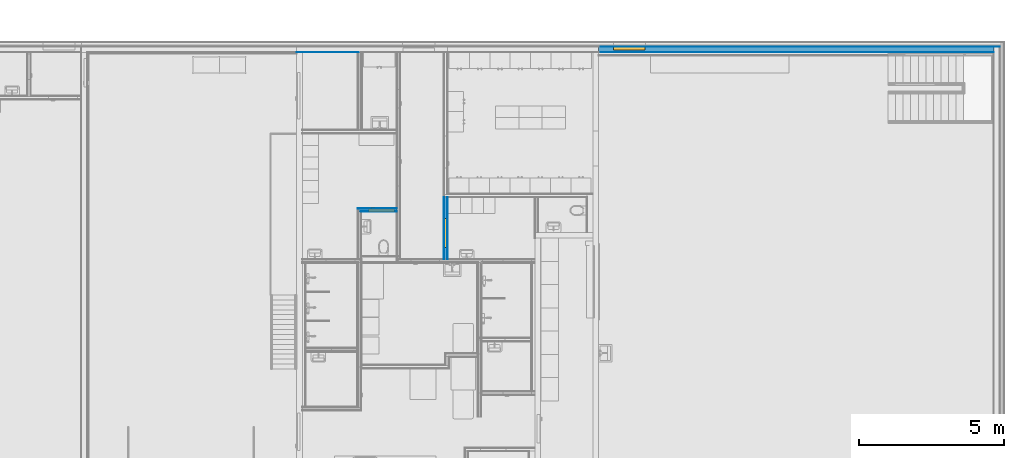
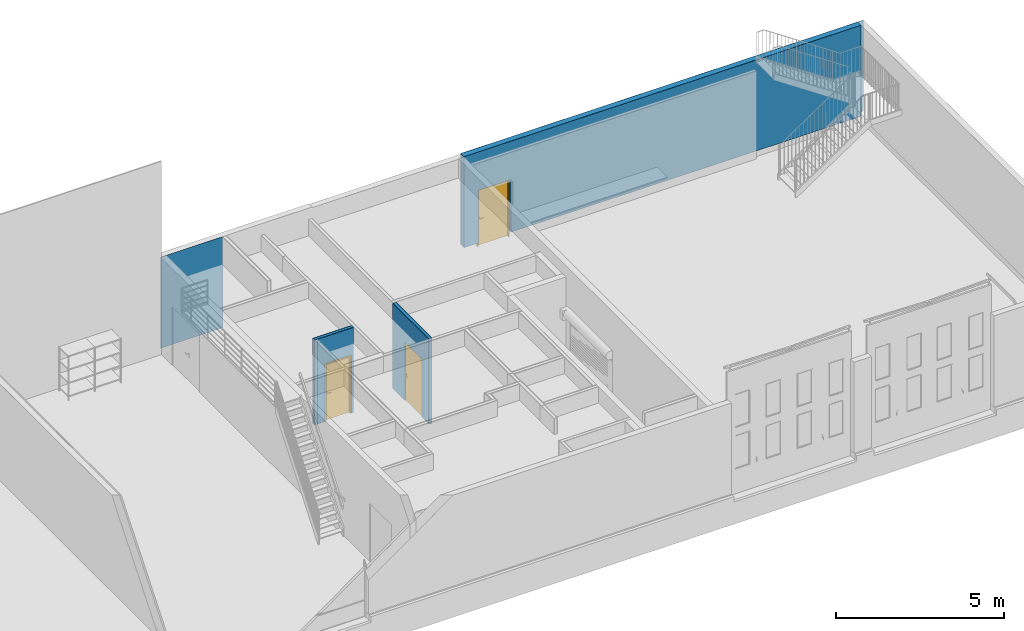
# One storey, part 22 of 67: 10 building element parts, 3 doors, 4 openings, 4 elements without a shape of their own.
"""IFC4 building model written with IfcOpenShell, lengths in millimetres."""

from ifc_helpers import new_model, entity, si_unit, converted_unit, direction, frame, origin, place, context, subcontext, project, spatial, indexed_curve, outline, extrude, polygons, source, transform, mapped, material, constituent, constituent_set, type_object, type_shapes, element, fill, aggregate, save


model = new_model("IFC4")

# Units and contexts
model_context = context("Model", 3, precision=0.01, world=origin(), true_north=direction((0.0, 1.0)))
body_context = subcontext(model_context, "Body", "Model", "MODEL_VIEW")
ifc_project = project(units=[si_unit("LENGTHUNIT", "METRE", prefix="MILLI"), si_unit("AREAUNIT", "SQUARE_METRE"), si_unit("VOLUMEUNIT", "CUBIC_METRE"), converted_unit("PLANEANGLEUNIT", "DEGREE", entity("IfcPlaneAngleMeasure", 0.017453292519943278), si_unit("PLANEANGLEUNIT", "RADIAN"), dimensions=[0, 0, 0, 0, 0, 0, 0])], contexts=[model_context])

# Site, building, storey
site_placement = place(None, origin())
site = spatial("IfcSite", under=ifc_project, at=site_placement, Name="Tomtens navn", CompositionType="ELEMENT")
building_placement = place(site_placement, origin())
building = spatial("IfcBuilding", under=site, at=building_placement, Name="Byggets navn", CompositionType="ELEMENT")
storey_placement = place(building_placement, origin())
storey = spatial("IfcBuildingStorey", under=building, at=storey_placement, Name="Level 01", CompositionType="ELEMENT", Elevation=2.1993652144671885e-25)

# Door
ifc_material_1 = material(Name="Rustfritt Stål", Category="Metal")
ifc_constituent_1 = constituent(ifc_material_1, Name="Rustfritt Stål", Category="Metal", fraction=0.0018055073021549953)
ifc_material_2 = material(Name="Hvit", Category="Paint")
ifc_constituent_2 = constituent(ifc_material_2, Name="Hvit", Category="Paint", fraction=0.998194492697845)
ifc_constituent_set_1 = constituent_set(constituents=[ifc_constituent_1, ifc_constituent_2])
ifc_constituent_3 = constituent(ifc_material_1, Name="Rustfritt Stål", Category="Metal", fraction=0.0009035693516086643)
ifc_constituent_4 = constituent(ifc_material_2, Name="Panel", Category="Paint", fraction=0.4995482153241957)
ifc_constituent_5 = constituent(ifc_material_2, Name="Frame/Mullion", Category="Paint", fraction=0.4995482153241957)
ifc_constituent_set_2 = constituent_set(constituents=[ifc_constituent_3, ifc_constituent_4, ifc_constituent_5])
door_type_1 = type_object("IfcDoorType", Name="Enfløyet:ID11 Tredør 10x21M", OperationType="SINGLE_SWING_LEFT", PredefinedType="DOOR", material=ifc_constituent_set_2)
shared_shape_1 = source(origin(), body_context, "Body", "SweptSolid", [
    extrude(outline(indexed_curve([(-33.33333333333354, -50.833333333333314), (24.166666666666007, -50.833333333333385), (24.166666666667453, 86.66666666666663), (9.16666666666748, 86.6666666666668), (9.166666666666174, -35.83333333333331), (-33.33333333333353, -35.83333333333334), (-33.33333333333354, -50.833333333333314)], self_intersect=False)), frame((868.666666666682, 119.9410394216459, 980.5000000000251), z_axis=(0.0, 0.0, 1.0), x_axis=(0.0, 1.0, 0.0)), (0.0, 0.0, 1.0), 14.999999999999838),
    extrude(outline(indexed_curve([(-2.8000000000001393, -25.000000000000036), (2.799999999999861, -25.000000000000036), (2.8000000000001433, 25.000000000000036), (-2.799999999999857, 24.999999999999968), (-2.8000000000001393, -25.000000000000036)], self_intersect=False)), frame((912.0, 83.80000000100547, 850.9862950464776), z_axis=(0.0, 0.0, 1.0), x_axis=(0.0, -1.0, 0.0)), (0.0, 0.0, 1.0), 159.01370495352),
    extrude(outline(indexed_curve([(-50.83333333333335, -33.33333333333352), (-35.83333333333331, -33.33333333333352), (-35.83333333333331, 9.16666666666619), (86.6666666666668, 9.1666666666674), (86.66666666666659, 24.1666666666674), (-50.83333333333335, 24.16666666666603), (-50.83333333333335, -33.33333333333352)], self_intersect=False)), frame((868.6666666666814, 2.0589605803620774, 980.5000000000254), z_axis=(0.0, 0.0, 1.0), x_axis=(-1.0, 0.0, 0.0)), (0.0, 0.0, 1.0), 14.999999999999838),
    extrude(outline(indexed_curve([(-24.999999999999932, -2.799999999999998), (25.00000000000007, -2.799999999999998), (25.0, 2.800000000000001), (-24.999999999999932, 2.800000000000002), (-24.999999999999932, -2.799999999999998)], self_intersect=False)), frame((912.0, 38.200000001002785, 850.9862950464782)), (0.0, 0.0, 1.0), 159.01370495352),
    extrude(outline(indexed_curve([(-456.9999999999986, -20.0), (456.9999999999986, -20.0), (456.9999999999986, 20.0), (-456.9999999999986, 20.0), (-456.9999999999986, -20.0)], self_intersect=False)), frame((505.0, 61.00000000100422, 10.0)), (0.0, 0.0, 1.0), 2042.0),
    extrude(outline(indexed_curve([(456.9999999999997, -1035.4999999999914), (494.99999999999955, -1035.4999999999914), (494.99999999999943, 1054.4999999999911), (-494.99999999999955, 1054.4999999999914), (-494.99999999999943, -1035.4999999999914), (-456.99999999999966, -1035.4999999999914), (-456.99999999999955, 1016.4999999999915), (456.99999999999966, 1016.4999999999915), (456.9999999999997, -1035.4999999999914)], self_intersect=False)), frame((505.0, 81.00000000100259, 1035.4999999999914), z_axis=(0.0, -1.0, 0.0), x_axis=(1.0, 0.0, 0.0)), (0.0, 0.0, 1.0), 99.99999999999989),
])
type_shapes(door_type_1, [shared_shape_1])
wall_1_placement = place(storey_placement, frame((63555.35352810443, 17870.466456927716, 0.0), z_axis=(0.0, 0.0, 1.0), x_axis=(0.0, -1.0, 0.0)))
opening_1_placement = place(wall_1_placement, frame((1730.500000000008, 60.500000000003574, 0.0)))
door_1_placement = place(opening_1_placement, frame((0.0, -20.0, 0.0), z_axis=(0.0, 0.0, 1.0), x_axis=(-1.0, 0.0, 0.0)))
door_1 = element("IfcDoor", 1, at=door_1_placement, inside=storey, type_object=door_type_1, material=ifc_constituent_set_1, Name="Enfløyet:ID11 Tredør 10x21M", OverallHeight=2110.000000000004, OverallWidth=1009.9999999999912, PredefinedType="DOOR", context=body_context, shape_type="MappedRepresentation", body=[
    mapped(shared_shape_1, transform((0.0, 0.0, 0.0), scale=1.0)),
])

ifc_constituent_6 = constituent(ifc_material_1, Name="Rustfritt Stål", Category="Metal", fraction=0.0019857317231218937)
ifc_material_3 = material(Name="NO_Maling - Hvit", Category="Overflatebehandling")
ifc_constituent_7 = constituent(ifc_material_3, Name="NO_Maling - Hvit", Category="Overflatebehandling", fraction=0.7764080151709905)
ifc_constituent_8 = constituent(ifc_material_2, Name="Hvit", Category="Paint", fraction=0.2216062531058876)
ifc_constituent_set_3 = constituent_set(constituents=[ifc_constituent_6, ifc_constituent_7, ifc_constituent_8])
ifc_constituent_9 = constituent(ifc_material_1, Name="Rustfritt Stål", Category="Metal", fraction=0.0019857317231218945)
ifc_constituent_10 = constituent(ifc_material_3, Name="Panel", Category="Overflatebehandling", fraction=0.7764080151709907)
ifc_constituent_11 = constituent(ifc_material_2, Name="Frame/Mullion", Category="Paint", fraction=0.22160625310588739)
ifc_constituent_set_4 = constituent_set(constituents=[ifc_constituent_9, ifc_constituent_10, ifc_constituent_11])
door_type_2 = type_object("IfcDoorType", Name="Enfløyet:ID04 Tredør 9x21M", OperationType="SINGLE_SWING_RIGHT", PredefinedType="DOOR", material=ifc_constituent_set_4)
shared_shape_2 = source(origin(), body_context, "Body", "SweptSolid", [
    extrude(outline(indexed_curve([(-50.833333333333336, -33.33333333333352), (-35.83333333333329, -33.33333333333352), (-35.8333333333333, 9.166666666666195), (86.66666666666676, 9.16666666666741), (86.66666666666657, 24.166666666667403), (-50.83333333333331, 24.16666666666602), (-50.833333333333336, -33.33333333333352)], self_intersect=False)), frame((141.33333333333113, 139.9410394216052, 980.5000000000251)), (0.0, 0.0, 1.0), 14.999999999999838),
    extrude(outline(indexed_curve([(-24.999999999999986, -2.7999999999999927), (25.000000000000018, -2.800000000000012), (24.999999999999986, 2.7999999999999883), (-24.99999999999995, 2.8000000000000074), (-24.999999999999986, -2.7999999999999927)], self_intersect=False)), frame((98.0, 103.80000000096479, 850.9862950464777), z_axis=(0.0, 0.0, 1.0), x_axis=(-1.0, 0.0, 0.0)), (0.0, 0.0, 1.0), 159.01370495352),
    extrude(outline(indexed_curve([(-33.33333333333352, -50.83333333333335), (24.16666666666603, -50.83333333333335), (24.166666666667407, 86.66666666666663), (9.166666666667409, 86.6666666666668), (9.16666666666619, -35.83333333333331), (-33.33333333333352, -35.83333333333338), (-33.33333333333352, -50.83333333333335)], self_intersect=False)), frame((141.33333333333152, 22.058960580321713, 980.5000000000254), z_axis=(0.0, 0.0, 1.0), x_axis=(0.0, -1.0, 0.0)), (0.0, 0.0, 1.0), 14.999999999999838),
    extrude(outline(indexed_curve([(-2.800000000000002, -25.00000000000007), (2.799999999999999, -25.00000000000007), (2.8000000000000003, 25.0), (-2.800000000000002, 24.999999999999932), (-2.800000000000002, -25.00000000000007)], self_intersect=False)), frame((98.0, 58.20000000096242, 850.9862950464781), z_axis=(0.0, 0.0, 1.0), x_axis=(0.0, 1.0, 0.0)), (0.0, 0.0, 1.0), 159.01370495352),
    extrude(outline(indexed_curve([(-20.0, -406.9999999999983), (20.0, -406.9999999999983), (20.0, 406.9999999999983), (-20.0, 406.9999999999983), (-20.0, -406.9999999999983)], self_intersect=False)), frame((455.0, 81.0, 10.0), z_axis=(0.0, 0.0, 1.0), x_axis=(0.0, 1.0, 0.0)), (0.0, 0.0, 1.0), 2042.0),
    extrude(outline(indexed_curve([(-1035.4999999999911, -444.9999999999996), (1054.4999999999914, -444.99999999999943), (1054.4999999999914, 444.99999999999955), (-1035.4999999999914, 444.99999999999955), (-1035.4999999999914, 406.9999999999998), (1016.4999999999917, 406.9999999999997), (1016.4999999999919, -406.99999999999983), (-1035.4999999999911, -406.9999999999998), (-1035.4999999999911, -444.9999999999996)], self_intersect=False)), frame((455.0, 1.0, 1035.4999999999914), z_axis=(0.0, 1.0, 0.0), x_axis=(0.0, 0.0, 1.0)), (0.0, 0.0, 1.0), 99.99999999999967),
])
type_shapes(door_type_2, [shared_shape_2])
wall_2_placement = place(storey_placement, frame((61865.35352810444, 17435.466456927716, 0.0), z_axis=(0.0, 0.0, 1.0), x_axis=(-1.0, 0.0, 0.0)))
opening_2_placement = place(wall_2_placement, frame((980.500000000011, 60.49999999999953, 0.0)))
door_2_placement = place(opening_2_placement, frame((0.0, 0.0, 0.0), z_axis=(0.0, 0.0, 1.0), x_axis=(-1.0, 0.0, 0.0)))
door_2 = element("IfcDoor", 2, at=door_2_placement, inside=storey, type_object=door_type_2, material=ifc_constituent_set_3, Name="Enfløyet:ID04 Tredør 9x21M", OverallHeight=2110.000000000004, OverallWidth=909.9999999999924, PredefinedType="DOOR", context=body_context, shape_type="MappedRepresentation", body=[
    mapped(shared_shape_2, transform((0.0, 0.0, 0.0), scale=1.0)),
])

ifc_constituent_12 = constituent(ifc_material_1, Name="Rustfritt Stål", Category="Metal", fraction=0.0016552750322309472)
ifc_material_4 = material(Name="NO_Maling - mørk grå", Category="Overflatebehandling")
ifc_constituent_13 = constituent(ifc_material_4, Name="NO_Maling - mørk grå", Category="Overflatebehandling", fraction=0.8062192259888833)
ifc_material_5 = material(Name="NO_Maling - sort", Category="Overflatebehandling")
ifc_constituent_14 = constituent(ifc_material_5, Name="NO_Maling - sort", Category="Overflatebehandling", fraction=0.19212549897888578)
ifc_constituent_set_5 = constituent_set(constituents=[ifc_constituent_12, ifc_constituent_13, ifc_constituent_14])
ifc_constituent_15 = constituent(ifc_material_1, Name="Rustfritt Stål", Category="Metal", fraction=0.0016552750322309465)
ifc_constituent_16 = constituent(ifc_material_4, Name="Panel", Category="Overflatebehandling", fraction=0.8062192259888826)
ifc_constituent_17 = constituent(ifc_material_5, Name="Frame/Mullion", Category="Overflatebehandling", fraction=0.19212549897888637)
ifc_constituent_set_6 = constituent_set(constituents=[ifc_constituent_15, ifc_constituent_16, ifc_constituent_17])
door_type_3 = type_object("IfcDoorType", Name="Enfløyet:YD02 Ytterdør 11x21M mørk grå", OperationType="SINGLE_SWING_RIGHT", PredefinedType="DOOR", material=ifc_constituent_set_6)
shared_shape_3 = source(origin(), body_context, "Body", "SweptSolid", [
    extrude(outline(indexed_curve([(-50.83333333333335, -33.33333333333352), (-35.83333333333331, -33.333333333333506), (-35.83333333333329, 9.166666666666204), (86.66666666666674, 9.166666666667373), (86.66666666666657, 24.16666666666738), (-50.8333333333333, 24.166666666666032), (-50.83333333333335, -33.33333333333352)], self_intersect=False)), frame((141.33333333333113, 218.94103942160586, 980.5000000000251)), (0.0, 0.0, 1.0), 14.999999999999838),
    extrude(outline(indexed_curve([(-24.99999999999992, -2.7999999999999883), (25.000000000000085, -2.8000000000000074), (25.000000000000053, 2.7999999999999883), (-24.999999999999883, 2.800000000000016), (-24.99999999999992, -2.7999999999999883)], self_intersect=False)), frame((98.0, 182.80000000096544, 850.9862950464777), z_axis=(0.0, 0.0, 1.0), x_axis=(-1.0, 0.0, 0.0)), (0.0, 0.0, 1.0), 159.01370495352),
    extrude(outline(indexed_curve([(-33.33333333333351, -50.83333333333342), (24.16666666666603, -50.83333333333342), (24.166666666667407, 86.66666666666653), (9.166666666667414, 86.66666666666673), (9.166666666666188, -35.83333333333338), (-33.33333333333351, -35.83333333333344), (-33.33333333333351, -50.83333333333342)], self_intersect=False)), frame((141.33333333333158, 101.05896058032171, 980.5000000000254), z_axis=(0.0, 0.0, 1.0), x_axis=(0.0, -1.0, 0.0)), (0.0, 0.0, 1.0), 14.999999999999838),
    extrude(outline(indexed_curve([(-2.799999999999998, -25.00000000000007), (2.800000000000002, -25.00000000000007), (2.800000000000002, 25.0), (-2.799999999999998, 24.999999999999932), (-2.799999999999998, -25.00000000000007)], self_intersect=False)), frame((98.0, 137.2000000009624, 850.9862950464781), z_axis=(0.0, 0.0, 1.0), x_axis=(0.0, 1.0, 0.0)), (0.0, 0.0, 1.0), 159.01370495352),
    extrude(outline(indexed_curve([(-20.0, -506.9999999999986), (19.999999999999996, -506.9999999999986), (19.999999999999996, 506.9999999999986), (-20.0, 506.9999999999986), (-20.0, -506.9999999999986)], self_intersect=False)), frame((555.0, 160.0, 10.0), z_axis=(0.0, 0.0, 1.0), x_axis=(0.0, 1.0, 0.0)), (0.0, 0.0, 1.0), 2042.0),
    extrude(outline(indexed_curve([(-1035.5000000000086, -544.9999999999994), (1054.5000000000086, -544.9999999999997), (1054.5000000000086, 544.9999999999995), (-1035.5000000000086, 544.9999999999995), (-1035.5000000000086, 506.99999999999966), (1016.5000000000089, 506.9999999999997), (1016.5000000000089, -506.9999999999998), (-1035.5000000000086, -506.99999999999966), (-1035.5000000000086, -544.9999999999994)], self_intersect=False)), frame((555.0, 80.0, 1035.5000000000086), z_axis=(0.0, 1.0, 0.0), x_axis=(0.0, 0.0, 1.0)), (0.0, 0.0, 1.0), 99.99999999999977),
])
type_shapes(door_type_3, [shared_shape_3])
wall_4_placement = place(storey_placement, frame((68822.85352810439, 22961.466456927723, 200.0)))
opening_4_placement = place(wall_4_placement, frame((500.0, -100.0, -200.0)))
door_3_placement = place(opening_4_placement, origin())
door_3 = element("IfcDoor", 3, at=door_3_placement, inside=storey, type_object=door_type_3, material=ifc_constituent_set_5, Name="Enfløyet:YD02 Ytterdør 11x21M mørk grå", OverallHeight=2110.000000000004, OverallWidth=1109.9999999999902, PredefinedType="DOOR", context=body_context, shape_type="MappedRepresentation", body=[
    mapped(shared_shape_3, transform((0.0, 0.0, 0.0), scale=1.0)),
])

# Wall, opening
wall_type_1 = type_object("IfcWallType", Name="Basic Wall:IV02 Gips Stender Gips-120mm", PredefinedType="STANDARD")
wall_1 = element("IfcWall", 4, at=wall_1_placement, inside=storey, type_object=wall_type_1, Name="Basic Wall:IV02 Gips Stender Gips-120mm", PredefinedType="NOTDEFINED")
opening_1 = element("IfcOpeningElement", 5, at=opening_1_placement, cuts=wall_1, Name="Enfløyet:ID11 Tredør 10x21M:1", PredefinedType="OPENING", context=body_context, shape_type="SweptSolid", body=[
    extrude(outline(indexed_curve([(0.0, -2.798720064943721e-27), (2110.000000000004, -2.798720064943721e-27), (2110.000000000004, 1009.9999999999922), (0.0, 1009.9999999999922), (0.0, -2.798720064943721e-27)], self_intersect=False)), frame((0.0, 0.0, 0.0), z_axis=(0.0, -1.0, 0.0), x_axis=(0.0, 0.0, 1.0)), (0.0, 0.0, 1.0), 120.99999999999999),
])

fill(opening_1, door_1)

# Building element part
ifc_material_6 = material(Name="Stender", Category="Unassigned")
building_element_part_1_placement = place(wall_1_placement, frame((2143.4999999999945, -47.49999999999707, 0.0)))
building_element_part_1 = element("IfcBuildingElementPart", 6, at=building_element_part_1_placement, material=ifc_material_6, Name="Stender", context=body_context, shape_type="Tessellation", body=[
    polygons([(0.0, 95.0000000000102, 7.331217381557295e-26), (-412.9999999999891, 95.0000000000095, 7.331217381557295e-26), (-412.9999999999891, 95.0000000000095, 2110.000000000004), (-1422.99999999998, 95.00000000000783, 2110.000000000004), (-1422.99999999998, 95.00000000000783, 7.331217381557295e-26), (-2143.4999999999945, 95.00000000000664, 7.331217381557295e-26), (-2143.4999999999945, 95.00000000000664, 3079.9999999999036), (0.0, 95.0000000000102, 3079.9999999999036), (-2143.4999999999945, -7.919932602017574e-12, 7.331217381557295e-26), (-1422.99999999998, -6.720563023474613e-12, 7.331217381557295e-26), (0.0, -4.35178729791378e-12, 3079.9999999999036), (-2143.4999999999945, -7.919932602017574e-12, 3079.9999999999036), (-412.9999999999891, -5.039281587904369e-12, 7.331217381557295e-26), (-412.9999999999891, -5.039281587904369e-12, 2110.000000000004), (-1422.99999999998, -6.720563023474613e-12, 2110.000000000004), (0.0, -4.35178729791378e-12, 7.331217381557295e-26)], [[[1, 2, 3, 4, 5, 6, 7, 8]], [[9, 6, 5, 10]], [[11, 8, 7, 12]], [[2, 13, 14, 3]], [[3, 14, 15, 4]], [[10, 5, 4, 15]], [[6, 9, 12, 7]], [[1, 16, 13, 2]], [[13, 16, 11, 12, 9, 10, 15, 14]], [[16, 1, 8, 11]]], closed=True),
])

ifc_material_7 = material(Name="Gipsplater", Category="NOR ^ Gips")
building_element_part_2_placement = place(wall_1_placement, frame((2130.4999999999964, 47.49999999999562, 0.0)))
building_element_part_2 = element("IfcBuildingElementPart", 7, at=building_element_part_2_placement, material=ifc_material_7, Name="Gipsplater", context=body_context, shape_type="Tessellation", body=[
    polygons([(-2130.4999999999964, 12.999999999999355, 2.1993652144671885e-25), (-1409.9999999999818, 13.000000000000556, 2.1993652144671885e-25), (-1409.9999999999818, 7.831352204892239e-12, 7.331217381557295e-26), (-2130.4999999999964, 6.6319826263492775e-12, 7.331217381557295e-26), (0.0, 13.000000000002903, 3079.9999999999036), (-2130.4999999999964, 12.999999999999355, 3079.9999999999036), (-2130.4999999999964, 6.6319826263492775e-12, 3079.9999999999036), (0.0, 1.0178487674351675e-11, 3079.9999999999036), (-399.9999999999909, 13.000000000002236, 2110.000000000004), (-399.9999999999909, 13.000000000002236, 2.1993652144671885e-25), (-399.9999999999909, 9.512633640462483e-12, 7.331217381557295e-26), (-399.9999999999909, 9.512633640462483e-12, 2110.000000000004), (-1409.9999999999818, 13.000000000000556, 2110.000000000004), (-1409.9999999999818, 7.831352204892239e-12, 2110.000000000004), (0.0, 13.000000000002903, 2.1993652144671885e-25), (0.0, 1.0178487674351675e-11, 7.331217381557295e-26)], [[[1, 2, 3, 4]], [[5, 6, 7, 8]], [[9, 10, 11, 12]], [[13, 9, 12, 14]], [[2, 13, 14, 3]], [[15, 5, 8, 16]], [[6, 1, 4, 7]], [[10, 15, 16, 11]], [[11, 16, 8, 7, 4, 3, 14, 12]], [[6, 5, 15, 10, 9, 13, 2, 1]]], closed=True),
])

building_element_part_3_placement = place(wall_1_placement, frame((2130.4999999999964, -60.4999999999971, 0.0)))
building_element_part_3 = element("IfcBuildingElementPart", 8, at=building_element_part_3_placement, material=ifc_material_7, Name="Gipsplater", context=body_context, shape_type="Tessellation", body=[
    polygons([(0.0, 12.99999999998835, 7.331217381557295e-26), (-399.9999999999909, 12.999999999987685, 7.331217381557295e-26), (-399.9999999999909, 12.999999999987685, 2110.000000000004), (-1409.9999999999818, 12.999999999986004, 2110.000000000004), (-1409.9999999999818, 12.999999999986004, 7.331217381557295e-26), (-2130.4999999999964, 12.999999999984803, 7.331217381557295e-26), (-2130.4999999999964, 12.999999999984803, 3079.9999999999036), (0.0, 12.99999999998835, 3079.9999999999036), (0.0, -4.373427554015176e-12, 3079.9999999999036), (-2130.4999999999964, -7.919932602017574e-12, 3079.9999999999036), (-2130.4999999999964, -7.919932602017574e-12, 2.1993652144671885e-25), (-1409.9999999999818, -6.720563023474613e-12, 2.1993652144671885e-25), (-1409.9999999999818, -6.720563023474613e-12, 2110.0000000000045), (-399.9999999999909, -5.039281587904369e-12, 2110.000000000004), (-399.9999999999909, -5.039281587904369e-12, 2.1993652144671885e-25), (0.0, -4.373427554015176e-12, 2.1993652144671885e-25)], [[[1, 2, 3, 4, 5, 6, 7, 8]], [[9, 10, 11, 12, 13, 14, 15, 16]], [[12, 11, 6, 5]], [[10, 9, 8, 7]], [[15, 14, 3, 2]], [[14, 13, 4, 3]], [[13, 12, 5, 4]], [[9, 16, 1, 8]], [[11, 10, 7, 6]], [[16, 15, 2, 1]]], closed=True),
])

aggregate(wall_1, [building_element_part_1, building_element_part_2, building_element_part_3])

# Wall, opening
wall_2 = element("IfcWall", 9, at=wall_2_placement, inside=storey, type_object=wall_type_1, Name="Basic Wall:IV02 Gips Stender Gips-120mm", PredefinedType="NOTDEFINED")
opening_2 = element("IfcOpeningElement", 10, at=opening_2_placement, cuts=wall_2, Name="Enfløyet:ID04 Tredør 9x21M:1", PredefinedType="OPENING", context=body_context, shape_type="SweptSolid", body=[
    extrude(outline(indexed_curve([(0.0, 909.9999999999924), (0.0, 9.206444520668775e-29), (2110.000000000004, 9.206444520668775e-29), (2110.000000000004, 909.9999999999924), (0.0, 909.9999999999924)], self_intersect=False)), frame((0.0, 0.0, 0.0), z_axis=(0.0, -1.0, 0.0), x_axis=(0.0, 0.0, 1.0)), (0.0, 0.0, 1.0), 120.99999999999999),
])

fill(opening_2, door_2)

# Building element part
building_element_part_4_placement = place(wall_2_placement, frame((1325.5000000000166, 47.49999999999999, 0.0)))
building_element_part_4 = element("IfcBuildingElementPart", 11, at=building_element_part_4_placement, material=ifc_material_6, Name="Stender", context=body_context, shape_type="Tessellation", body=[
    polygons([(-1255.0000000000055, -3.637978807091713e-12, 7.331217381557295e-26), (-1338.5000000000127, -3.637978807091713e-12, 7.331217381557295e-26), (-1338.5000000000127, -3.637978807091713e-12, 3079.9999999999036), (-5.565402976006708e-12, -3.637978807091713e-12, 3079.9999999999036), (-5.565402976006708e-12, -3.637978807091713e-12, 7.331217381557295e-26), (-345.00000000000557, -3.637978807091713e-12, 7.331217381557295e-26), (-345.00000000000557, -3.637978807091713e-12, 2110.000000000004), (-1255.0000000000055, -3.637978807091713e-12, 2110.000000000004), (-1338.500000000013, -95.00000000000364, 7.331217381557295e-26), (-1255.0000000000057, -95.00000000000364, 7.331217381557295e-26), (-5.59580982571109e-12, -95.00000000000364, 3079.9999999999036), (-1338.500000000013, -95.00000000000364, 3079.9999999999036), (-1255.0000000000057, -95.00000000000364, 2110.000000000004), (-345.00000000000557, -95.00000000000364, 2110.000000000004), (-345.00000000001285, -95.00000000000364, 7.331217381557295e-26), (-5.59580982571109e-12, -95.00000000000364, 7.331217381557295e-26)], [[[1, 2, 3, 4, 5, 6, 7, 8]], [[9, 2, 1, 10]], [[11, 4, 3, 12]], [[10, 1, 8, 13]], [[13, 8, 7, 14]], [[6, 15, 14, 7]], [[5, 16, 15, 6]], [[9, 10, 13, 14, 15, 16, 11, 12]], [[2, 9, 12, 3]], [[16, 5, 4, 11]]], closed=True),
])

building_element_part_5_placement = place(wall_2_placement, frame((1230.5000000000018, 60.49999999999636, 0.0)))
building_element_part_5 = element("IfcBuildingElementPart", 12, at=building_element_part_5_placement, material=ifc_material_7, Name="Gipsplater", context=body_context, shape_type="Tessellation", body=[
    polygons([(-1230.4999999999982, 0.0, 2.1993652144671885e-25), (-1159.999999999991, 0.0, 2.1993652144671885e-25), (-1159.999999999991, -13.0, 7.331217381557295e-26), (-1230.4999999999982, -13.0, 7.331217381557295e-26), (-12.99999999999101, 0.0, 3079.9999999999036), (-1230.4999999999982, 0.0, 3079.9999999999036), (-1230.4999999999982, -13.0, 3079.9999999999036), (1.7105546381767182e-12, -13.0, 3079.9999999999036), (1.7147155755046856e-12, 0.0, 3079.9999999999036), (-1159.999999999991, 0.0, 2110.000000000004), (-1159.999999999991, -13.0, 2110.000000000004), (-249.99999999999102, 0.0, 2110.000000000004), (-249.99999999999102, -13.0, 2110.000000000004), (-249.99999999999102, 0.0, 2.1993652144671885e-25), (-249.99999999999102, -13.0, 7.331217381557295e-26), (-12.99999999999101, 0.0, 2.1993652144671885e-25), (1.7147155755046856e-12, 0.0, 2.1993652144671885e-25), (1.7105546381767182e-12, -13.0, 7.331217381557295e-26)], [[[1, 2, 3, 4]], [[5, 6, 7, 8, 9]], [[6, 1, 4, 7]], [[2, 10, 11, 3]], [[10, 12, 13, 11]], [[12, 14, 15, 13]], [[16, 17, 18, 15, 14]], [[4, 3, 11, 13, 15, 18, 8, 7]], [[6, 5, 9, 17, 16, 14, 12, 10, 2, 1]], [[17, 9, 8, 18]]], closed=True),
])

building_element_part_6_placement = place(wall_2_placement, frame((1338.5000000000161, -47.49999999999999, 0.0)))
building_element_part_6 = element("IfcBuildingElementPart", 13, at=building_element_part_6_placement, material=ifc_material_7, Name="Gipsplater", context=body_context, shape_type="Tessellation", body=[
    polygons([(-1268.0000000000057, 0.0, 7.331217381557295e-26), (-1338.500000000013, 0.0, 7.331217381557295e-26), (-1338.500000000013, 0.0, 3079.9999999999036), (-2.0147725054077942e-11, 0.0, 3079.9999999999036), (-2.0147725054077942e-11, 0.0, 7.331217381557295e-26), (-358.00000000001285, 0.0, 7.331217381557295e-26), (-358.00000000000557, 0.0, 2110.000000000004), (-1268.0000000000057, 0.0, 2110.000000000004), (-2.015188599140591e-11, -13.0, 3079.9999999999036), (-1338.500000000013, -13.0, 3079.9999999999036), (-1338.500000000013, -13.0, 2.1993652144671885e-25), (-1268.0000000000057, -13.0, 2.1993652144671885e-25), (-1268.0000000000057, -13.0, 2110.000000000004), (-358.0000000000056, -13.0, 2110.000000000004), (-358.0000000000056, -13.0, 2.1993652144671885e-25), (-2.015188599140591e-11, -13.0, 2.1993652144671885e-25)], [[[1, 2, 3, 4, 5, 6, 7, 8]], [[9, 10, 11, 12, 13, 14, 15, 16]], [[12, 11, 2, 1]], [[10, 9, 4, 3]], [[11, 10, 3, 2]], [[9, 16, 5, 4]], [[13, 12, 1, 8]], [[14, 13, 8, 7]], [[15, 14, 7, 6]], [[16, 15, 6, 5]]], closed=True),
])

aggregate(wall_2, [building_element_part_4, building_element_part_5, building_element_part_6])

# Wall, opening, building element part
wall_type_2 = type_object("IfcWallType", Name="Basic Wall:YV02 Sandwichvegg 200 rød", PredefinedType="STANDARD")
wall_3_placement = place(storey_placement, frame((58422.853528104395, 22961.466456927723, 200.0)))
wall_3 = element("IfcWall", 14, at=wall_3_placement, inside=storey, type_object=wall_type_2, Name="Basic Wall:YV02 Sandwichvegg 200 rød", PredefinedType="NOTDEFINED")
opening_3_placement = place(wall_3_placement, frame((3650.0, -100.0, -200.0)))
element("IfcOpeningElement", 15, at=opening_3_placement, cuts=wall_3, Name="Enfløyet:YD01 Glassdør sprosse 11x21M:1", PredefinedType="OPENING", context=body_context, shape_type="SweptSolid", body=[
    extrude(outline(indexed_curve([(0.0, -5.272662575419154e-31), (2110.000000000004, -5.272662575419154e-31), (2110.000000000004, 1109.9999999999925), (0.0, 1109.9999999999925), (0.0, -5.272662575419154e-31)], self_intersect=False)), frame((0.0, 0.0, 0.0), z_axis=(0.0, 1.0, 0.0), x_axis=(0.0, 0.0, 1.0)), (0.0, 0.0, 1.0), 200.0),
])
building_element_part_7_placement = place(wall_3_placement, origin())
building_element_part_7 = element("IfcBuildingElementPart", 16, at=building_element_part_7_placement, material=ifc_material_1, Name="Rustfritt Stål", context=body_context, shape_type="SweptSolid", body=[
    extrude(outline(indexed_curve([(-1.000000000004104, -1067.2500000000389), (0.9999999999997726, -1067.2500000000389), (0.9999999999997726, 1067.2500000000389), (-1.000000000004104, 1067.2500000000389), (-1.000000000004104, -1067.2500000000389)], self_intersect=False)), frame((1067.250000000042, -99.0, 0.0), z_axis=(0.0, 0.0, 1.0), x_axis=(0.0, -1.0, 0.0)), (0.0, 0.0, 1.0), 3299.999999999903),
])
aggregate(wall_3, [building_element_part_7])

# Wall, opening
wall_type_3 = type_object("IfcWallType", Name="Basic Wall:YV02 Sandwichvegg 200", PredefinedType="STANDARD")
wall_4 = element("IfcWall", 17, at=wall_4_placement, inside=storey, type_object=wall_type_3, Name="Basic Wall:YV02 Sandwichvegg 200", PredefinedType="NOTDEFINED")
opening_4 = element("IfcOpeningElement", 18, at=opening_4_placement, cuts=wall_4, Name="Enfløyet:YD02 Ytterdør 11x21M mørk grå:1", PredefinedType="OPENING", context=body_context, shape_type="SweptSolid", body=[
    extrude(outline(indexed_curve([(0.0, 1109.9999999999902), (0.0, 3.172570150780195e-29), (2110.000000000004, 3.172570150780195e-29), (2110.000000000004, 1109.9999999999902), (0.0, 1109.9999999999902)], self_intersect=False)), frame((0.0, 0.0, 0.0), z_axis=(0.0, 1.0, 0.0), x_axis=(0.0, 0.0, 1.0)), (0.0, 0.0, 1.0), 200.0),
])

fill(opening_4, door_3)

# Building element part
ifc_material_8 = material(Name="Metall - Malt overflate - Mørk Grå, Matt", Category="Unassigned")
building_element_part_8_placement = place(wall_4_placement, frame((0.0, 98.0, 0.0)))
building_element_part_8 = element("IfcBuildingElementPart", 19, at=building_element_part_8_placement, material=ifc_material_8, Name="Metall - Malt overflate - Mørk Grå, Matt", context=body_context, shape_type="Tessellation", body=[
    polygons([(1610.000000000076, -7.275957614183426e-12, 0.0), (13798.000000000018, -7.275957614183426e-12, 0.0), (13798.000000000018, -7.275957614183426e-12, 3299.999999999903), (1.772174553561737e-11, -7.275957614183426e-12, 3299.999999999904), (1.772174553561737e-11, -7.275957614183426e-12, 0.0), (500.0000000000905, -7.275957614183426e-12, 0.0), (500.0000000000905, -7.275957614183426e-12, 1910.000000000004), (1610.000000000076, -7.275957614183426e-12, 1910.000000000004), (3.1701052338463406e-12, 1.999999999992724, 0.0), (500.0000000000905, 1.999999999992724, 0.0), (13798.000000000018, 2.0, 3299.999999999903), (3.1701052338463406e-12, 1.999999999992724, 3299.999999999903), (1610.000000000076, 1.999999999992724, 1910.000000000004), (1610.000000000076, 1.999999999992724, 0.0), (500.00000000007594, 1.999999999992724, 1910.000000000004), (13798.000000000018, 2.0, 0.0)], [[[1, 2, 3, 4, 5, 6, 7, 8]], [[9, 10, 6, 5]], [[11, 12, 4, 3]], [[12, 9, 5, 4]], [[13, 14, 1, 8]], [[15, 13, 8, 7]], [[10, 15, 7, 6]], [[14, 16, 2, 1]], [[12, 11, 16, 14, 13, 15, 10, 9]], [[16, 11, 3, 2]]], closed=True),
])

building_element_part_9_placement = place(wall_4_placement, frame((0.0, -100.0, 0.0)))
building_element_part_9 = element("IfcBuildingElementPart", 20, at=building_element_part_9_placement, material=ifc_material_1, Name="Rustfritt Stål", context=body_context, shape_type="Tessellation", body=[
    polygons([(13599.999999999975, 2.000000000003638, 0.0), (1610.0000000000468, 2.000000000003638, 0.0), (1610.0000000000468, 2.000000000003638, 1910.000000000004), (500.0000000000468, 2.000000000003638, 1910.000000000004), (500.00000000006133, 2.000000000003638, 0.0), (-2.5960942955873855e-11, 2.000000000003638, 0.0), (-2.5960942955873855e-11, 2.000000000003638, 3299.999999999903), (13599.999999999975, 2.000000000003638, 3299.999999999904), (500.00000000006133, 0.0, 0.0), (-2.5961217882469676e-11, 0.0, 0.0), (-2.5961217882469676e-11, 0.0, 3299.999999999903), (13599.999999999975, 3.637978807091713e-12, 3299.999999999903), (-2.5961217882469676e-11, 0.0, 2979.9999999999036), (13599.999999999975, 3.637978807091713e-12, 0.0), (1610.0000000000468, 0.0, 0.0), (1610.0000000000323, 0.0, 1910.000000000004), (500.00000000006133, 0.0, 1910.000000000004)], [[[1, 2, 3, 4, 5, 6, 7, 8]], [[9, 10, 6, 5]], [[11, 12, 8, 7]], [[13, 11, 7, 6, 10]], [[12, 14, 1, 8]], [[15, 16, 3, 2]], [[16, 17, 4, 3]], [[17, 9, 5, 4]], [[14, 15, 2, 1]], [[12, 11, 13, 10, 9, 17, 16, 15, 14]]], closed=True),
])

ifc_material_9 = material(Name="NO_Isolasjon - Fast", Category="Isolasjon")
building_element_part_10_placement = place(wall_4_placement, frame((0.0, -98.0, 0.0)))
building_element_part_10 = element("IfcBuildingElementPart", 21, at=building_element_part_10_placement, material=ifc_material_9, Name="NO_Isolasjon - Fast", context=body_context, shape_type="Tessellation", body=[
    polygons([(13601.999999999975, 195.99999999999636, 0.0), (1610.0000000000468, 195.99999999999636, 0.0), (1610.0000000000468, 195.99999999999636, 1910.000000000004), (500.0000000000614, 195.99999999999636, 1910.000000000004), (500.0000000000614, 195.99999999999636, 0.0), (-1.1382084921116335e-11, 195.99999999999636, 0.0), (-1.1382084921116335e-11, 195.99999999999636, 3299.999999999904), (13601.999999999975, 195.99999999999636, 3299.999999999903), (1610.0000000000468, 0.0, 0.0), (13601.999999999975, 0.0, 0.0), (13601.999999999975, 0.0, 3299.999999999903), (-2.5960942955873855e-11, 0.0, 3299.999999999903), (-2.5960942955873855e-11, 0.0, 0.0), (500.00000000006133, 0.0, 0.0), (500.0000000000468, 0.0, 1910.000000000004), (1610.0000000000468, 0.0, 1910.000000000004)], [[[1, 2, 3, 4, 5, 6, 7, 8]], [[9, 10, 11, 12, 13, 14, 15, 16]], [[13, 6, 5, 14]], [[11, 8, 7, 12]], [[6, 13, 12, 7]], [[2, 9, 16, 3]], [[3, 16, 15, 4]], [[14, 5, 4, 15]], [[1, 10, 9, 2]], [[10, 1, 8, 11]]], closed=True),
])

aggregate(wall_4, [building_element_part_8, building_element_part_9, building_element_part_10])

save(model, "model.ifc")
